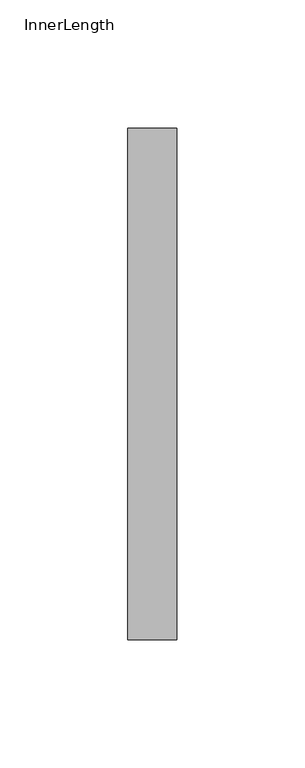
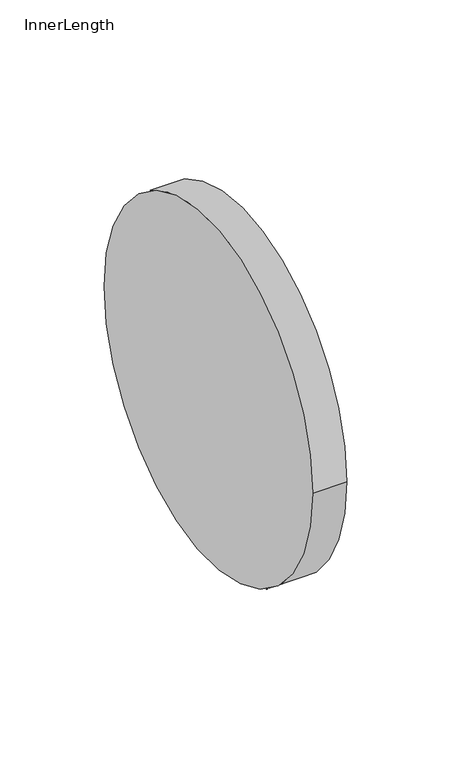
"""IFC4 building model written with IfcOpenShell, lengths in millimetres: pipe fitting geometry, CADS_Jeremias_InnerLength : InnerLength."""

from ifc_helpers import new_model, si_unit, point, frame, origin, origin_2d, place, context, project, spatial, circle_curve, trimmed, segment, composite_curve, outline, extrude, source, transform, mapped, element, save


def innerlength_a647f86e(model_context):
    return source(origin(), model_context, "Body", "SweptSolid", [
        extrude(outline(composite_curve([segment(trimmed(circle_curve(origin_2d(), 100.0), [point((-100.0, 0.0))], [point((100.0, 0.0))], False, "CARTESIAN"), True, "CONTINUOUS"), segment(trimmed(circle_curve(origin_2d(), 100.0), [point((100.0, 0.0))], [point((-100.0, 0.0))], False, "CARTESIAN"), True, "CONTINUOUS")], self_intersect=False)), frame((0.0, 0.0, 0.0), z_axis=(1.0, 0.0, 0.0), x_axis=(0.0, 1.0, 0.0)), (0.0, 0.0, 1.0), 19.0),
    ])


if __name__ == "__main__":
    model = new_model("IFC4")
    model_context = context("Model", 3, world=origin())
    ifc_project = project(units=[si_unit("LENGTHUNIT", "METRE", prefix="MILLI")], contexts=[model_context])
    site = spatial("IfcSite", under=ifc_project)
    building = spatial("IfcBuilding", under=site)
    placement = place(None, origin())
    innerlength_shape = innerlength_a647f86e(model_context)
    element("IfcPipeFitting", 1, ObjectType="CADS_Jeremias_InnerLength : InnerLength", at=placement, inside=building, context=model_context, shape_type="MappedRepresentation", body=[
        mapped(innerlength_shape, transform((0.0, 0.0, 0.0), x_axis=(1.0, 0.0, 0.0), y_axis=(0.0, 1.0, 0.0), z_axis=(0.0, 0.0, 1.0))),
    ])
    save(model, "model.ifc")
